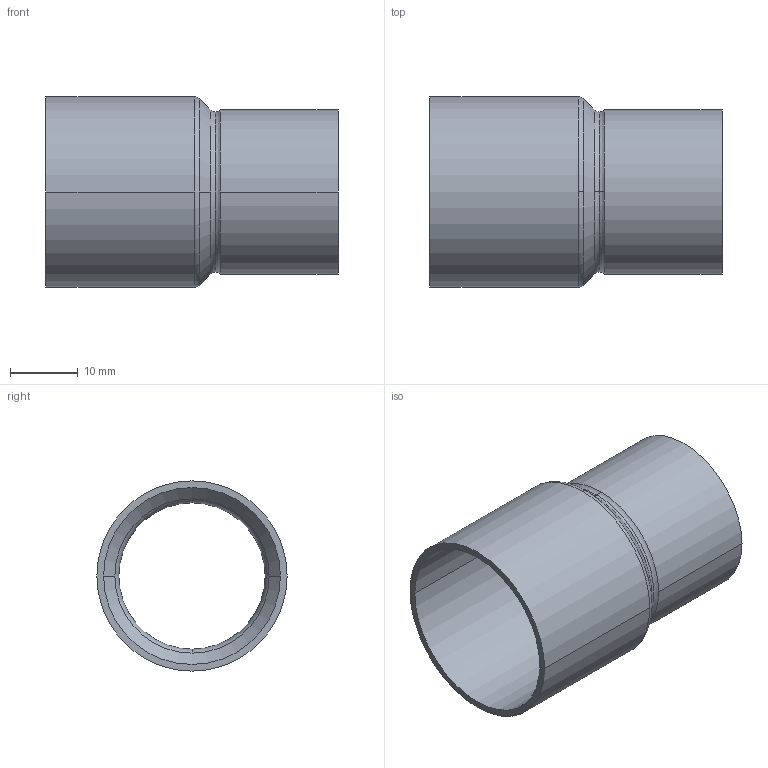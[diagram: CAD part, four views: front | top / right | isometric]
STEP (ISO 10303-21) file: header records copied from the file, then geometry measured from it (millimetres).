
FILE_DESCRIPTION((''),'2;1');
FILE_NAME('G:\Technics\CAD\Bauteile\Serie 15243\152432822.stp','2005-10-21T12:49:40',('boden'),(''),'Autodesk Inventor 8','Autodesk Inventor 8','');
FILE_SCHEMA(('AUTOMOTIVE_DESIGN { 1 0 10303 214 1 1 1 1 }'));
Length unit declared in the file: millimetre
Products named in the file (1): 152432822
Bounding box: 43 x 28 x 28 mm (x, y, z)
Volume: 3472.9 mm3; surface area: 7103.8 mm2
Topology: 1 solids, 1 shells, 24 faces, 60 edges, 38 vertices
Faces by surface type: cylinder 8, torus 6, bspline 4, cone 4, plane 2
Entity records: 931 total; most frequent: CARTESIAN_POINT 299, DIRECTION 150, ORIENTED_EDGE 120, AXIS2_PLACEMENT_3D 69, EDGE_CURVE 60, CIRCLE 48, VERTEX_POINT 38, EDGE_LOOP 26
